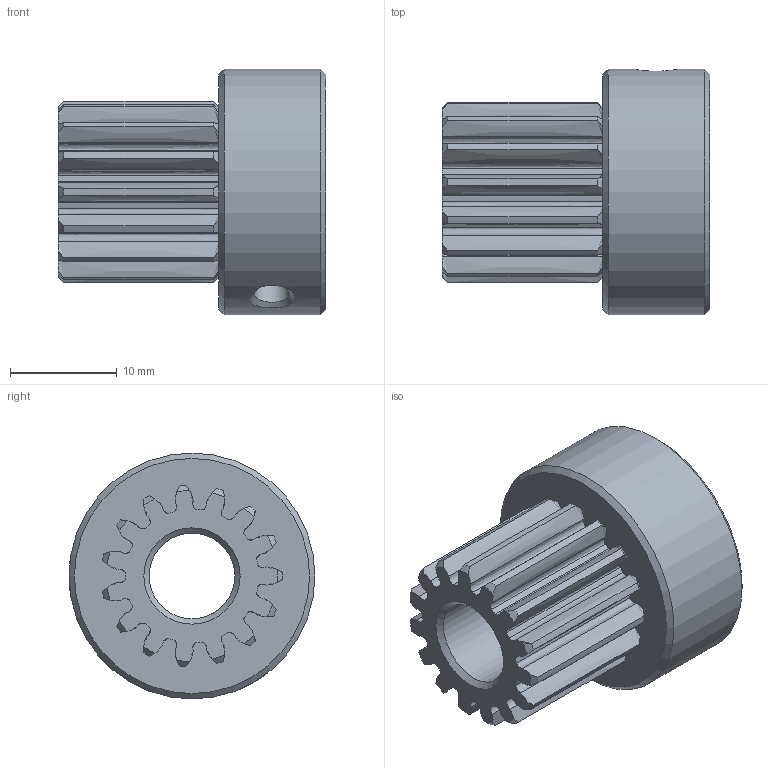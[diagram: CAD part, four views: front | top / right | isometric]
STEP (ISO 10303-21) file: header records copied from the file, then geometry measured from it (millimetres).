
FILE_DESCRIPTION(('STEP AP214'), '1');
FILE_NAME('GS1-T15D8-Øåñòåðíÿ', '2016-08-31T07:15:25', (''), (''), 'ASCON STEP Converter 1.3', 'ASCON Math Kernel', '');
FILE_SCHEMA(('AUTOMOTIVE_DESIGN { 1 0 10303 214 3 1 1}'));
Length unit declared in the file: millimetre
Products named in the file (1): GS1-T15D8
Bounding box: 25 x 23 x 23 mm (x, y, z)
Volume: 5307.5 mm3; surface area: 4382 mm2
Topology: 2 solids, 2 shells, 139 faces, 396 edges, 262 vertices
Faces by surface type: extrusion 60, cylinder 38, cone 34, plane 5, bspline 2
Full cylindrical faces by diameter (mm): 3.242 x4, 8 x1, 12 x2, 23 x1
Entity records: 8018 total; most frequent: CARTESIAN_POINT 3494, ORIENTED_EDGE 764, DIRECTION 510, EDGE_CURVE 382, VERTEX_POINT 262, B_SPLINE_CURVE_WITH_KNOTS 249, AXIS2_PLACEMENT_3D 180, EDGE_LOOP 166
